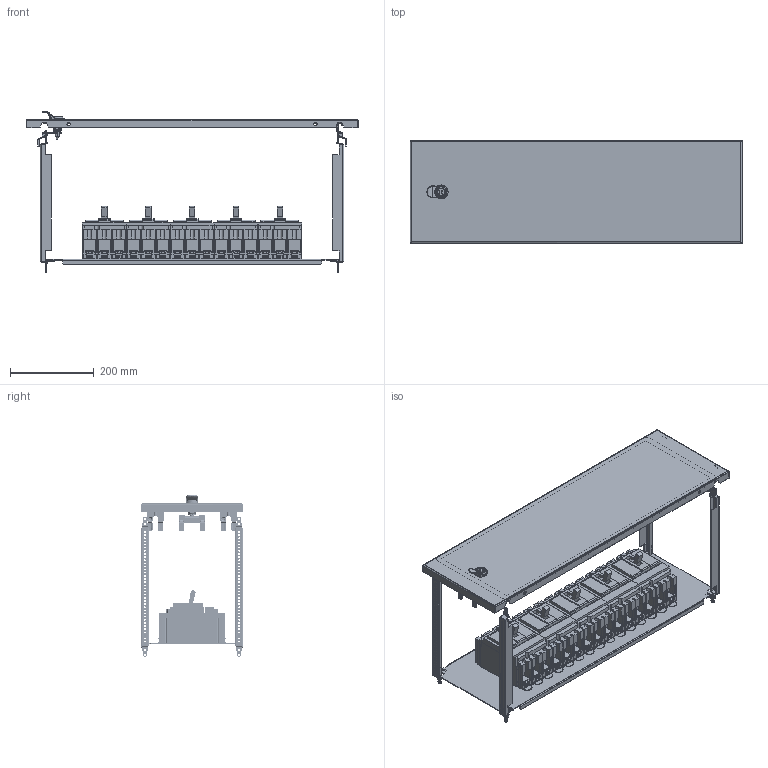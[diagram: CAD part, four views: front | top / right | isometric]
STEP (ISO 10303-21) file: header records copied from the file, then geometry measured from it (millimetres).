
FILE_DESCRIPTION(('CAx-IF Rec.Pracs.---Model Styling and Organization---1.2---2011-12-15','CAx-IF Rec.Pracs.---Geometric and Assembly Validation Properties---4.1---2014-06-16','CAx-IF Rec.Pracs.---PMI Polyline Presentation---2.0---2013-05-24'),'2;1');
FILE_NAME('R5PKEB7V82213 (F).stp','2021-07-29T02:56:31+03:00',(''),(''),'STEP Interface 4.4 by CT CoreTechnologie','3D_Evolution4.4 by CT CoreTechnologie','');
FILE_SCHEMA(('AUTOMOTIVE_DESIGN { 1 0 10303 214 1 1 1 1 }'));
Length unit declared in the file: millimetre
Products named in the file (1): R5PKEB7V82213 (F)
Bounding box: 794 x 245 x 386.89 mm (x, y, z)
Surface area: 1851495.4 mm2 (no closed solid volume)
Topology: 0 solids, 92 shells, 5666 faces, 16192 edges, 10723 vertices
Faces by surface type: plane 3975, cylinder 1246, bspline 445
Entity records: 193854 total; most frequent: CARTESIAN_POINT 44650, ORIENTED_EDGE 32252, DIRECTION 29172, EDGE_CURVE 16131, VECTOR 12868, LINE 12868, VERTEX_POINT 10808, AXIS2_PLACEMENT_3D 8152
